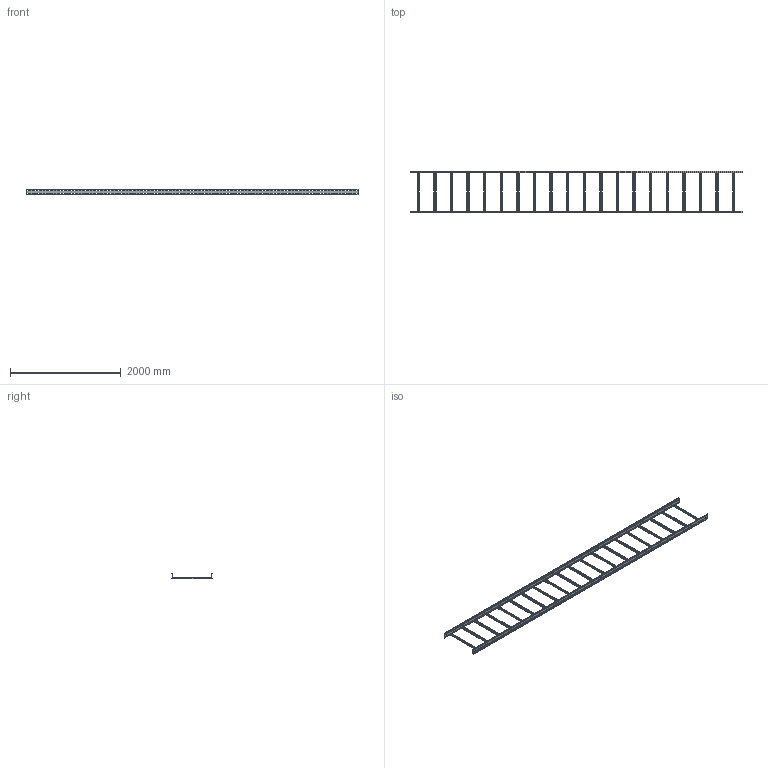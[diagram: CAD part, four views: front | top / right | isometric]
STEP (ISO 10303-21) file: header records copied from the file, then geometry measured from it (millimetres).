
FILE_DESCRIPTION(/* description */ ('','CAx-IF Rec.Pracs.---Representation and Presentation of Product Manufacturing Information (PMI)---4.0---2014-10-13'),/* implementation_level */ '2;1');
FILE_NAME(/* name */ 'Eurostrut_ECL100-700-6_Cable Ladder.step',/* time_stamp */ '2026-09-03T11:57:46+02:00',/* author */ (''),/* organization */ (''),/* preprocessor_version */ 'ST-DEVELOPER v20.1',/* originating_system */ 'Autodesk Revit 2027 27.2.0.39',/* authorisation */ '');
FILE_SCHEMA (('AP242_MANAGED_MODEL_BASED_3D_ENGINEERING_MIM_LF { 1 0 10303 442 2 1 4 }'));
Products named in the file (4): TopLevelAssembly; 60mm; 60mm_1; Cable Ladder Rung_Slotted
Assembly tree (22 placements, depth 2):
  TopLevelAssembly
    60mm
    60mm_1
    Cable Ladder Rung_Slotted  x20
Bounding box: 6000 x 746 x 100 mm (x, y, z)
Volume: 5396866.9 mm3; surface area: 6141356.9 mm2
Topology: 22 solids, 22 shells, 5140 faces, 15288 edges, 10192 vertices
Faces by surface type: plane 3636, bspline 1400, cylinder 104
Entity records: 74868 total; most frequent: CARTESIAN_POINT 14986, ORIENTED_EDGE 12792, DIRECTION 10780, EDGE_CURVE 6396, LINE 6200, VECTOR 6200, VERTEX_POINT 4264, EDGE_LOOP 3168
